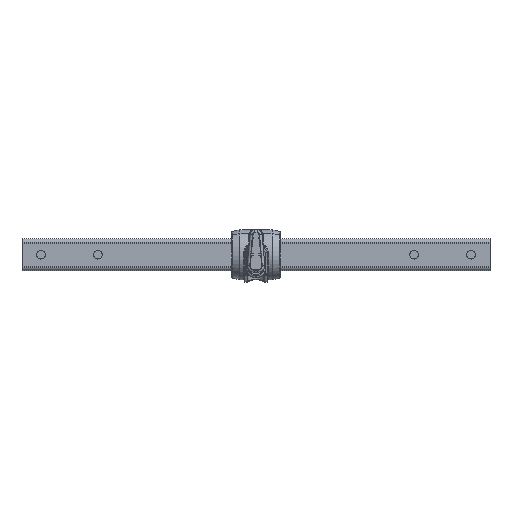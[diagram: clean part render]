
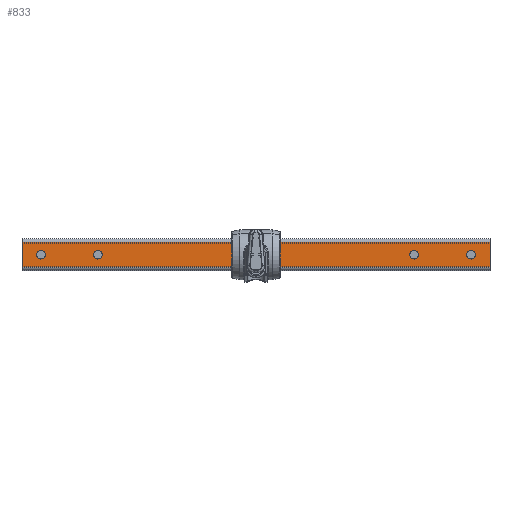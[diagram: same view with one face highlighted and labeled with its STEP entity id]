
A CAD part, front view. The second image highlights one B-rep face of the part: STEP entity #833.
In plain terms, the highlighted planar face has unit normal (0, -1, 0).
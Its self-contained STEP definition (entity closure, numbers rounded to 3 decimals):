
#225=DIRECTION('',(0.,0.,-1.));
#226=VECTOR('',#225,20.);
#227=CARTESIAN_POINT('',(-185.,-12.5,10.));
#228=LINE('',#227,#226);
#276=DIRECTION('',(0.,0.,-1.));
#277=VECTOR('',#276,20.);
#278=CARTESIAN_POINT('',(185.,-12.5,10.));
#279=LINE('',#278,#277);
#322=DIRECTION('',(-1.,0.,0.));
#323=VECTOR('',#322,370.);
#324=CARTESIAN_POINT('',(185.,-12.5,-10.));
#325=LINE('',#324,#323);
#326=DIRECTION('',(-1.,0.,0.));
#327=VECTOR('',#326,370.);
#328=CARTESIAN_POINT('',(185.,-12.5,10.));
#329=LINE('',#328,#327);
#330=CARTESIAN_POINT('',(170.,-12.5,0.));
#331=DIRECTION('',(0.,-1.,0.));
#332=DIRECTION('',(-1.,0.,0.));
#333=AXIS2_PLACEMENT_3D('',#330,#331,#332);
#335=CARTESIAN_POINT('',(170.,-12.5,0.));
#336=DIRECTION('',(0.,-1.,0.));
#337=DIRECTION('',(1.,0.,0.));
#338=AXIS2_PLACEMENT_3D('',#335,#336,#337);
#340=CARTESIAN_POINT('',(125.,-12.5,0.));
#341=DIRECTION('',(0.,-1.,0.));
#342=DIRECTION('',(-1.,0.,0.));
#343=AXIS2_PLACEMENT_3D('',#340,#341,#342);
#345=CARTESIAN_POINT('',(125.,-12.5,0.));
#346=DIRECTION('',(0.,-1.,0.));
#347=DIRECTION('',(1.,0.,0.));
#348=AXIS2_PLACEMENT_3D('',#345,#346,#347);
#350=CARTESIAN_POINT('',(0.,-12.5,0.));
#351=DIRECTION('',(0.,-1.,0.));
#352=DIRECTION('',(-1.,0.,0.));
#353=AXIS2_PLACEMENT_3D('',#350,#351,#352);
#355=CARTESIAN_POINT('',(0.,-12.5,0.));
#356=DIRECTION('',(0.,-1.,0.));
#357=DIRECTION('',(1.,0.,0.));
#358=AXIS2_PLACEMENT_3D('',#355,#356,#357);
#360=CARTESIAN_POINT('',(-170.,-12.5,0.));
#361=DIRECTION('',(0.,1.,0.));
#362=DIRECTION('',(1.,0.,0.));
#363=AXIS2_PLACEMENT_3D('',#360,#361,#362);
#365=CARTESIAN_POINT('',(-170.,-12.5,0.));
#366=DIRECTION('',(0.,1.,0.));
#367=DIRECTION('',(-1.,0.,0.));
#368=AXIS2_PLACEMENT_3D('',#365,#366,#367);
#370=CARTESIAN_POINT('',(-125.,-12.5,0.));
#371=DIRECTION('',(0.,1.,0.));
#372=DIRECTION('',(1.,0.,0.));
#373=AXIS2_PLACEMENT_3D('',#370,#371,#372);
#375=CARTESIAN_POINT('',(-125.,-12.5,0.));
#376=DIRECTION('',(0.,1.,0.));
#377=DIRECTION('',(-1.,0.,0.));
#378=AXIS2_PLACEMENT_3D('',#375,#376,#377);
#591=CARTESIAN_POINT('',(-185.,-12.5,-10.));
#593=VERTEX_POINT('',#591);
#594=CARTESIAN_POINT('',(185.,-12.5,-10.));
#595=VERTEX_POINT('',#594);
#606=CARTESIAN_POINT('',(-185.,-12.5,10.));
#608=VERTEX_POINT('',#606);
#612=CARTESIAN_POINT('',(185.,-12.5,10.));
#613=VERTEX_POINT('',#612);
#614=CARTESIAN_POINT('',(166.6,-12.5,0.));
#615=CARTESIAN_POINT('',(173.4,-12.5,0.));
#616=VERTEX_POINT('',#614);
#617=VERTEX_POINT('',#615);
#622=CARTESIAN_POINT('',(121.6,-12.5,0.));
#623=CARTESIAN_POINT('',(128.4,-12.5,0.));
#624=VERTEX_POINT('',#622);
#625=VERTEX_POINT('',#623);
#630=CARTESIAN_POINT('',(-3.4,-12.5,0.));
#631=CARTESIAN_POINT('',(3.4,-12.5,0.));
#632=VERTEX_POINT('',#630);
#633=VERTEX_POINT('',#631);
#639=CARTESIAN_POINT('',(-166.6,-12.5,0.));
#641=VERTEX_POINT('',#639);
#643=CARTESIAN_POINT('',(-173.4,-12.5,0.));
#645=VERTEX_POINT('',#643);
#647=CARTESIAN_POINT('',(-121.6,-12.5,0.));
#649=VERTEX_POINT('',#647);
#651=CARTESIAN_POINT('',(-128.4,-12.5,0.));
#653=VERTEX_POINT('',#651);
#791=CARTESIAN_POINT('',(-185.,-12.5,12.5));
#792=DIRECTION('',(0.,-1.,0.));
#793=DIRECTION('',(0.,0.,-1.));
#794=AXIS2_PLACEMENT_3D('',#791,#792,#793);
#795=PLANE('',#794);
#796=ORIENTED_EDGE('',*,*,#784,.T.);
#797=ORIENTED_EDGE('',*,*,#684,.F.);
#799=ORIENTED_EDGE('',*,*,#798,.F.);
#800=ORIENTED_EDGE('',*,*,#735,.T.);
#801=EDGE_LOOP('',(#796,#797,#799,#800));
#802=FACE_OUTER_BOUND('',#801,.F.);
#804=ORIENTED_EDGE('',*,*,#803,.T.);
#806=ORIENTED_EDGE('',*,*,#805,.T.);
#807=EDGE_LOOP('',(#804,#806));
#808=FACE_BOUND('',#807,.F.);
#810=ORIENTED_EDGE('',*,*,#809,.T.);
#812=ORIENTED_EDGE('',*,*,#811,.T.);
#813=EDGE_LOOP('',(#810,#812));
#814=FACE_BOUND('',#813,.F.);
#816=ORIENTED_EDGE('',*,*,#815,.T.);
#818=ORIENTED_EDGE('',*,*,#817,.T.);
#819=EDGE_LOOP('',(#816,#818));
#820=FACE_BOUND('',#819,.F.);
#822=ORIENTED_EDGE('',*,*,#821,.F.);
#824=ORIENTED_EDGE('',*,*,#823,.F.);
#825=EDGE_LOOP('',(#822,#824));
#826=FACE_BOUND('',#825,.F.);
#828=ORIENTED_EDGE('',*,*,#827,.F.);
#830=ORIENTED_EDGE('',*,*,#829,.F.);
#831=EDGE_LOOP('',(#828,#830));
#832=FACE_BOUND('',#831,.F.);
#334=CIRCLE('',#333,3.4);
#339=CIRCLE('',#338,3.4);
#344=CIRCLE('',#343,3.4);
#349=CIRCLE('',#348,3.4);
#354=CIRCLE('',#353,3.4);
#359=CIRCLE('',#358,3.4);
#364=CIRCLE('',#363,3.4);
#369=CIRCLE('',#368,3.4);
#374=CIRCLE('',#373,3.4);
#379=CIRCLE('',#378,3.4);
#684=EDGE_CURVE('',#608,#593,#228,.T.);
#735=EDGE_CURVE('',#613,#595,#279,.T.);
#784=EDGE_CURVE('',#595,#593,#325,.T.);
#798=EDGE_CURVE('',#613,#608,#329,.T.);
#803=EDGE_CURVE('',#616,#617,#334,.T.);
#805=EDGE_CURVE('',#617,#616,#339,.T.);
#809=EDGE_CURVE('',#624,#625,#344,.T.);
#811=EDGE_CURVE('',#625,#624,#349,.T.);
#815=EDGE_CURVE('',#632,#633,#354,.T.);
#817=EDGE_CURVE('',#633,#632,#359,.T.);
#821=EDGE_CURVE('',#641,#645,#364,.T.);
#823=EDGE_CURVE('',#645,#641,#369,.T.);
#827=EDGE_CURVE('',#649,#653,#374,.T.);
#829=EDGE_CURVE('',#653,#649,#379,.T.);
#833=ADVANCED_FACE('',(#802,#808,#814,#820,#826,#832),#795,.T.);
